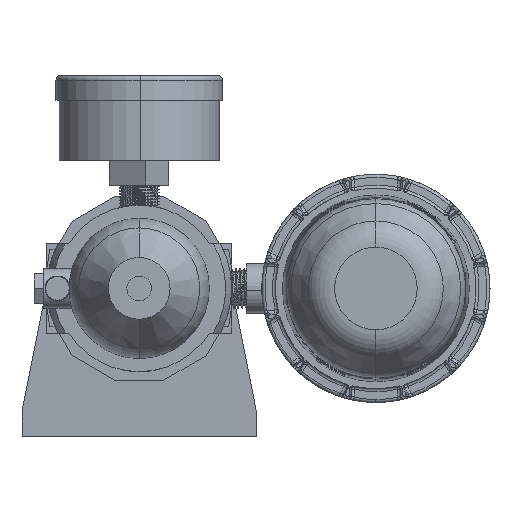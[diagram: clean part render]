
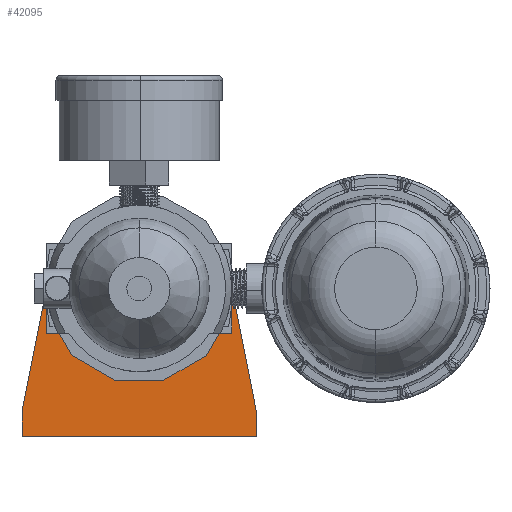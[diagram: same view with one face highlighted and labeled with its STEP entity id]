
A CAD part, front view. The second image highlights one B-rep face of the part: STEP entity #42095.
In plain terms, the highlighted planar face has unit normal (0, -1, 0).
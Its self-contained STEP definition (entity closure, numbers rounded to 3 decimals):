
#1566 = VERTEX_POINT ( 'NONE', #48079 ) ;
#1904 = VERTEX_POINT ( 'NONE', #55428 ) ;
#3216 = CARTESIAN_POINT ( 'NONE',  ( -38., 0., -48. ) ) ;
#4871 = LINE ( 'NONE', #15086, #7636 ) ;
#5908 = CARTESIAN_POINT ( 'NONE',  ( 28.937, 0., 5.734 ) ) ;
#7636 = VECTOR ( 'NONE', #54676, 1000. ) ;
#8975 = VECTOR ( 'NONE', #28482, 1000. ) ;
#10302 = CARTESIAN_POINT ( 'NONE',  ( 0., 0., 0. ) ) ;
#10497 = DIRECTION ( 'NONE',  ( 0., 1., 0. ) ) ;
#14493 = VECTOR ( 'NONE', #15503, 1000. ) ;
#14984 = LINE ( 'NONE', #40272, #49703 ) ;
#15086 = CARTESIAN_POINT ( 'NONE',  ( -38., 0., -48. ) ) ;
#15494 = VERTEX_POINT ( 'NONE', #56931 ) ;
#15503 = DIRECTION ( 'NONE',  ( 0.194, 0., 0.981 ) ) ;
#15855 = CIRCLE ( 'NONE', #44134, 24. ) ;
#16266 = EDGE_CURVE ( 'NONE', #28460, #1566, #28408, .T. ) ;
#16437 = DIRECTION ( 'NONE',  ( 0.194, 0., -0.981 ) ) ;
#17794 = CARTESIAN_POINT ( 'NONE',  ( -38., 0., -40. ) ) ;
#18837 = ORIENTED_EDGE ( 'NONE', *, *, #49069, .F. ) ;
#19203 = CARTESIAN_POINT ( 'NONE',  ( -38., 0., -40. ) ) ;
#19698 = ORIENTED_EDGE ( 'NONE', *, *, #40958, .F. ) ;
#19992 = ORIENTED_EDGE ( 'NONE', *, *, #16266, .F. ) ;
#20746 = EDGE_CURVE ( 'NONE', #42955, #51122, #14984, .T. ) ;
#21083 = AXIS2_PLACEMENT_3D ( 'NONE', #10302, #10497, #24088 ) ;
#22647 = CIRCLE ( 'NONE', #33840, 24. ) ;
#22854 = LINE ( 'NONE', #19203, #14493 ) ;
#24088 = DIRECTION ( 'NONE',  ( 0., 0., 1. ) ) ;
#24298 = CARTESIAN_POINT ( 'NONE',  ( 0., 0., 0. ) ) ;
#25958 = VERTEX_POINT ( 'NONE', #49660 ) ;
#26380 = LINE ( 'NONE', #55444, #8975 ) ;
#26882 = DIRECTION ( 'NONE',  ( 0., 0., 1. ) ) ;
#28408 = LINE ( 'NONE', #52140, #43009 ) ;
#28460 = VERTEX_POINT ( 'NONE', #5908 ) ;
#28482 = DIRECTION ( 'NONE',  ( 0., 0., -1. ) ) ;
#29230 = CARTESIAN_POINT ( 'NONE',  ( 0., 0., 0. ) ) ;
#33229 = FACE_OUTER_BOUND ( 'NONE', #37045, .T. ) ;
#33840 = AXIS2_PLACEMENT_3D ( 'NONE', #24298, #37655, #41759 ) ;
#35634 = EDGE_CURVE ( 'NONE', #47478, #1904, #22647, .T. ) ;
#36995 = ORIENTED_EDGE ( 'NONE', *, *, #35634, .T. ) ;
#37045 = EDGE_LOOP ( 'NONE', ( #45303, #43702, #56067, #18837, #19992, #19698 ) ) ;
#37071 = PLANE ( 'NONE',  #21083 ) ;
#37201 = CARTESIAN_POINT ( 'NONE',  ( 0., 0., 0. ) ) ;
#37591 = ORIENTED_EDGE ( 'NONE', *, *, #42989, .T. ) ;
#37655 = DIRECTION ( 'NONE',  ( 0., 1., 0. ) ) ;
#40272 = CARTESIAN_POINT ( 'NONE',  ( -38., 0., -48. ) ) ;
#40297 = CIRCLE ( 'NONE', #44458, 29.5 ) ;
#40870 = EDGE_CURVE ( 'NONE', #25958, #42955, #4871, .T. ) ;
#40958 = EDGE_CURVE ( 'NONE', #15494, #28460, #40297, .T. ) ;
#41759 = DIRECTION ( 'NONE',  ( 0., 0., 1. ) ) ;
#42095 = ADVANCED_FACE ( 'NONE', ( #57534, #33229 ), #37071, .F. ) ;
#42955 = VERTEX_POINT ( 'NONE', #3216 ) ;
#42989 = EDGE_CURVE ( 'NONE', #1904, #47478, #15855, .T. ) ;
#43009 = VECTOR ( 'NONE', #16437, 1000. ) ;
#43702 = ORIENTED_EDGE ( 'NONE', *, *, #20746, .F. ) ;
#44134 = AXIS2_PLACEMENT_3D ( 'NONE', #29230, #51503, #55988 ) ;
#44458 = AXIS2_PLACEMENT_3D ( 'NONE', #37201, #49814, #50565 ) ;
#45303 = ORIENTED_EDGE ( 'NONE', *, *, #49827, .F. ) ;
#47478 = VERTEX_POINT ( 'NONE', #49043 ) ;
#48079 = CARTESIAN_POINT ( 'NONE',  ( 38., 0., -40. ) ) ;
#49043 = CARTESIAN_POINT ( 'NONE',  ( 0., 0., -24. ) ) ;
#49069 = EDGE_CURVE ( 'NONE', #1566, #25958, #26380, .T. ) ;
#49660 = CARTESIAN_POINT ( 'NONE',  ( 38., 0., -48. ) ) ;
#49703 = VECTOR ( 'NONE', #26882, 1000. ) ;
#49814 = DIRECTION ( 'NONE',  ( 0., 1., 0. ) ) ;
#49827 = EDGE_CURVE ( 'NONE', #51122, #15494, #22854, .T. ) ;
#50565 = DIRECTION ( 'NONE',  ( 0., 0., 1. ) ) ;
#51122 = VERTEX_POINT ( 'NONE', #17794 ) ;
#51503 = DIRECTION ( 'NONE',  ( 0., 1., 0. ) ) ;
#52140 = CARTESIAN_POINT ( 'NONE',  ( 38., 0., -40. ) ) ;
#54676 = DIRECTION ( 'NONE',  ( -1., 0., 0. ) ) ;
#55428 = CARTESIAN_POINT ( 'NONE',  ( 0., 0., 24. ) ) ;
#55444 = CARTESIAN_POINT ( 'NONE',  ( 38., 0., -48. ) ) ;
#55645 = EDGE_LOOP ( 'NONE', ( #37591, #36995 ) ) ;
#55988 = DIRECTION ( 'NONE',  ( 0., 0., 1. ) ) ;
#56067 = ORIENTED_EDGE ( 'NONE', *, *, #40870, .F. ) ;
#56931 = CARTESIAN_POINT ( 'NONE',  ( -28.937, 0., 5.734 ) ) ;
#57534 = FACE_BOUND ( 'NONE', #55645, .T. ) ;
